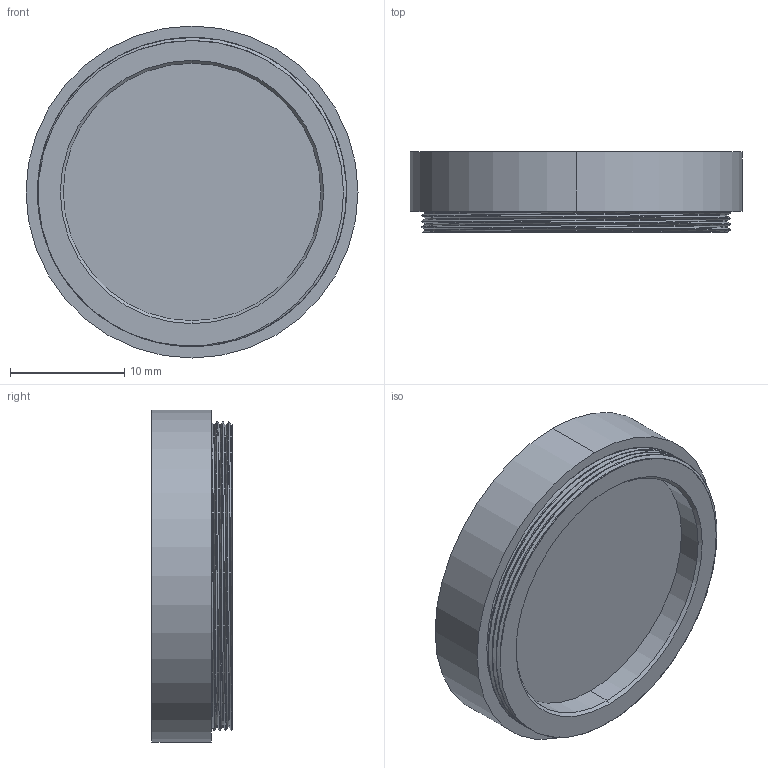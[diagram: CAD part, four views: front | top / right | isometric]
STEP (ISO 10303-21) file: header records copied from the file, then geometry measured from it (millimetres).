
FILE_DESCRIPTION (( 'STEP AP214' ), '1' );
FILE_NAME ('M27 x P0.5.STEP', '2023-01-19T08:17:46', ( '' ), ( '' ), 'SwSTEP 2.0', 'SolidWorks 2021', '' );
FILE_SCHEMA (( 'AUTOMOTIVE_DESIGN' ));
Length unit declared in the file: millimetre
Products named in the file (1): M27 x P0.5
Bounding box: 29 x 7 x 29 mm (x, y, z)
Volume: 1258.8 mm3; surface area: 3248.5 mm2
Topology: 3 solids, 3 shells, 50 faces, 121 edges, 80 vertices
Faces by surface type: cylinder 32, plane 10, bspline 6, cone 2
Entity records: 2842 total; most frequent: CARTESIAN_POINT 1747, ORIENTED_EDGE 242, DIRECTION 191, EDGE_CURVE 121, VERTEX_POINT 80, AXIS2_PLACEMENT_3D 79, EDGE_LOOP 57, FACE_OUTER_BOUND 50
